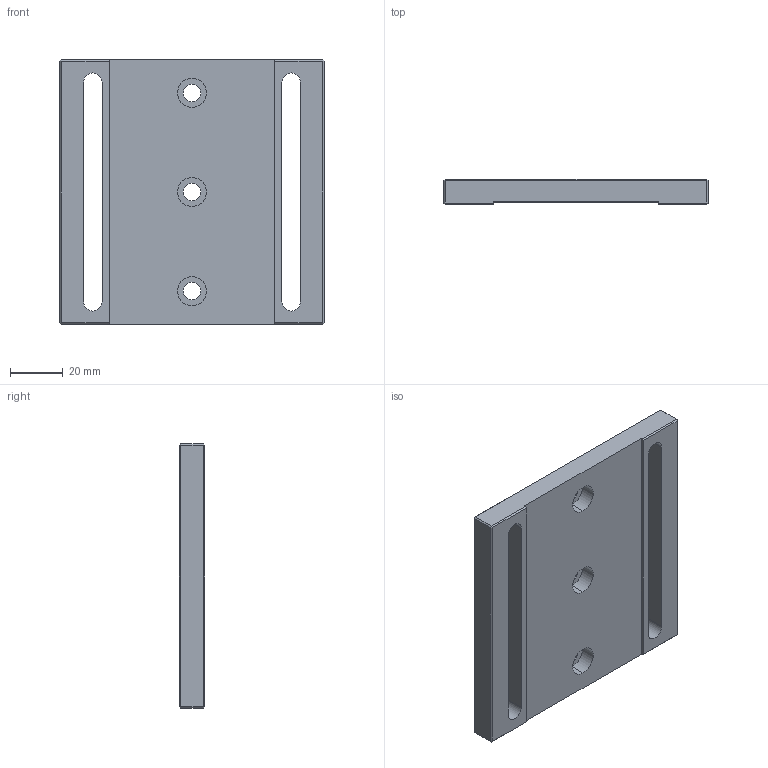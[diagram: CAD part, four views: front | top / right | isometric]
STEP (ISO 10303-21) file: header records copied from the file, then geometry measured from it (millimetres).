
FILE_DESCRIPTION (( 'STEP AP203' ), '1' );
FILE_NAME ('BP-4.step', '2019-05-09T08:56:00', ( '' ), ( '' ), 'SwSTEP 2.0', 'SolidWorks 2016', '' );
FILE_SCHEMA (( 'CONFIG_CONTROL_DESIGN' ));
Length unit declared in the file: millimetre
Products named in the file (1): BP-4
Bounding box: 100 x 9.5 x 100 mm (x, y, z)
Volume: 74960.5 mm3; surface area: 25322.5 mm2
Topology: 1 solids, 1 shells, 57 faces, 140 edges, 88 vertices
Faces by surface type: plane 39, cylinder 18
Entity records: 1759 total; most frequent: DIRECTION 292, CARTESIAN_POINT 286, ORIENTED_EDGE 280, EDGE_CURVE 140, VECTOR 104, LINE 104, AXIS2_PLACEMENT_3D 94, VERTEX_POINT 88
